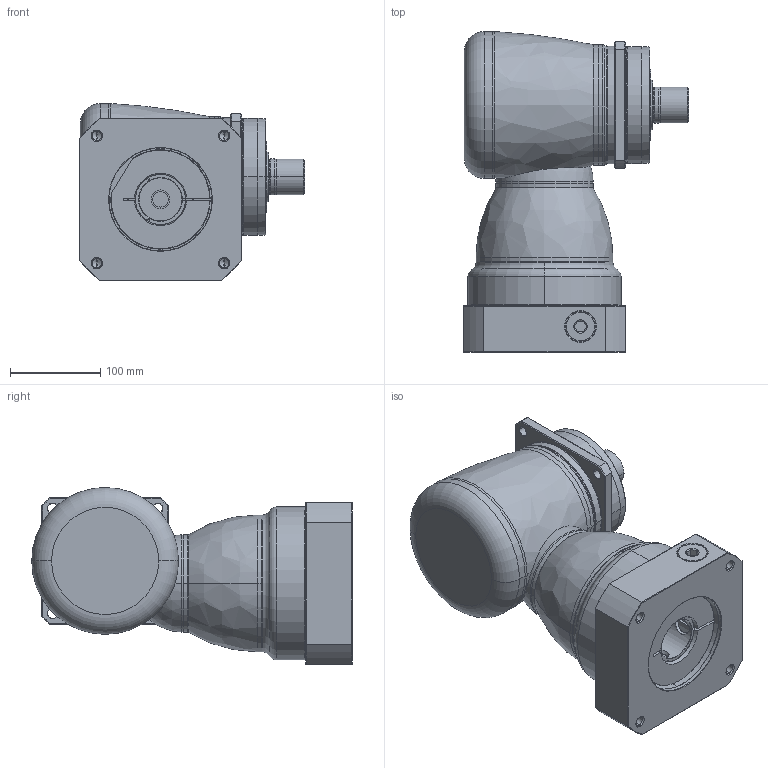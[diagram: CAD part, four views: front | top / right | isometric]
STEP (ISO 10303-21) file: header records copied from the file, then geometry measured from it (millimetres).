
FILE_DESCRIPTION((''),'2;1');
FILE_NAME('KF140_S3_1ST_48-P0409B00101_ASM','2016-07-05T',('d01943'),(''),'PRO/ENGINEER BY PARAMETRIC TECHNOLOGY CORPORATION, 2008410','PRO/ENGINEER BY PARAMETRIC TECHNOLOGY CORPORATION, 2008410','');
FILE_SCHEMA(('CONFIG_CONTROL_DESIGN'));
Length unit declared in the file: millimetre
Products named in the file (11): P1008500002; P1804500001; P0915502001; P1315500001; P1007500001; P1318500601; P0409B00101; P0503B00016; P0912506201; 21711426021; KF140_S3_1ST_48-P0409B00101_ASM
Assembly tree (10 placements, depth 2):
  KF140_S3_1ST_48-P0409B00101_ASM
    P1008500002
    P1804500001
    P0915502001
    P1315500001
    P1007500001
    P1318500601
    P0409B00101
    P0503B00016
    P0912506201
    21711426021
Bounding box: 250 x 356 x 196.5 mm (x, y, z)
Volume: 6937614.7 mm3; surface area: 605145.3 mm2
Topology: 11 solids, 11 shells, 442 faces, 982 edges, 577 vertices
Faces by surface type: cylinder 144, cone 122, plane 93, torus 62, bspline 19, sphere 2
Entity records: 17295 total; most frequent: CARTESIAN_POINT 7281, DIRECTION 2217, ORIENTED_EDGE 1924, EDGE_CURVE 962, AXIS2_PLACEMENT_3D 938, VERTEX_POINT 577, EDGE_LOOP 501, CIRCLE 494
